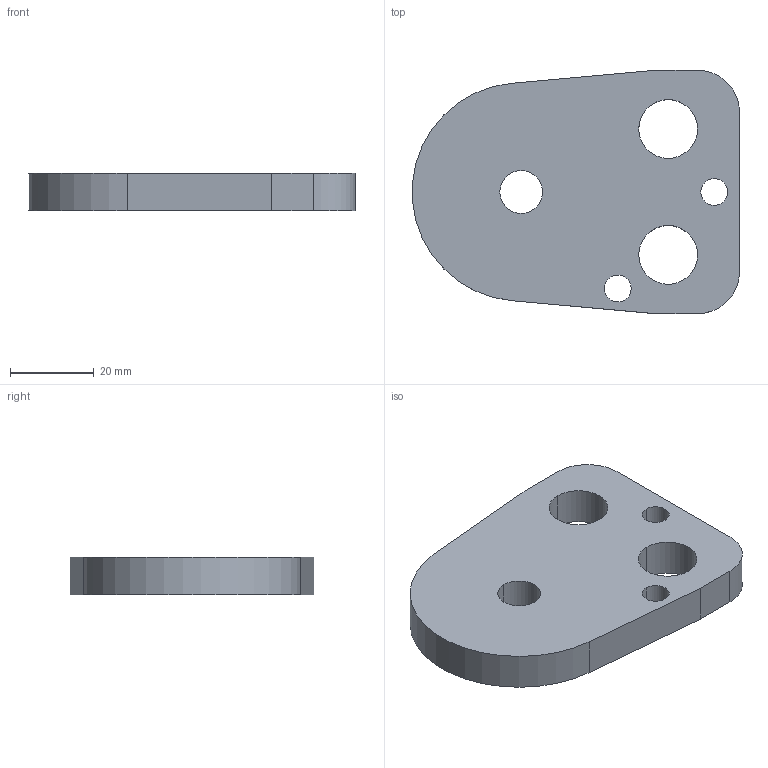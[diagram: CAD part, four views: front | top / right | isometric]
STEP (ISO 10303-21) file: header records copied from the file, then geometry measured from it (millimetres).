
FILE_DESCRIPTION(/* description */ (''),/* implementation_level */ '2;1');
FILE_NAME(/* name */ '3d_bpc38-9_03406_r00.stp',/* time_stamp */ '2011-01-10T14:17:09+09:00',/* author */ ('MISUMI'),/* organization */ (''),/* preprocessor_version */ 'ST-DEVELOPER v11',/* originating_system */ 'UGS - NX 5.0',/* authorisation */ '');
FILE_SCHEMA (('CONFIG_CONTROL_DESIGN'));
Length unit declared in the file: millimetre
Products named in the file (1): 3d_bpc38-9_03406_r00
Bounding box: 77.9 x 58 x 9 mm (x, y, z)
Volume: 31397.1 mm3; surface area: 10537.5 mm2
Topology: 1 solids, 1 shells, 20 faces, 54 edges, 36 vertices
Faces by surface type: cylinder 13, plane 7
Entity records: 750 total; most frequent: DIRECTION 122, CARTESIAN_POINT 111, ORIENTED_EDGE 108, EDGE_CURVE 54, AXIS2_PLACEMENT_3D 47, VERTEX_POINT 36, EDGE_LOOP 30, LINE 28
